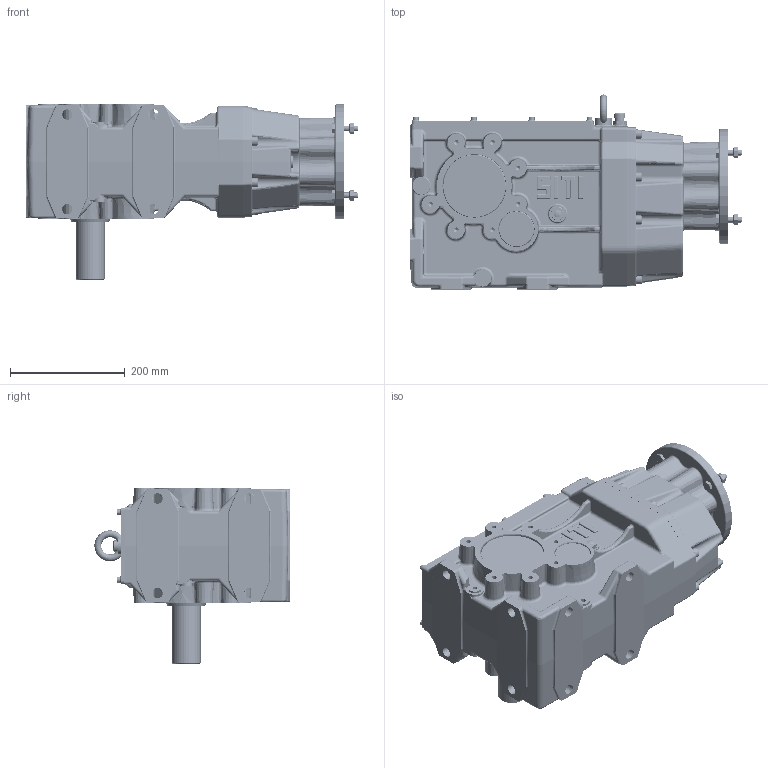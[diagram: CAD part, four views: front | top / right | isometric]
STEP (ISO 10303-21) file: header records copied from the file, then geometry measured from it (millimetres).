
FILE_DESCRIPTION((''),'2;1');
FILE_NAME('C:\Users\m.piscopiello.SITIRIDUTTORI\Desktop\3D x SITO\MBHGC 100 PAM 90\MBHGC_100 MS-A GR 90 B5.stp','2013-05-07T17:26:55',('m.piscopiello'),(''),'Autodesk Inventor 2012','Autodesk Inventor 2012','');
FILE_SCHEMA(('CONFIG_CONTROL_DESIGN'));
Length unit declared in the file: millimetre
Products named in the file (1): MBHGC_100 MS-A GR 90 B5
Bounding box: 578.5 x 339.9 x 305 mm (x, y, z)
Volume: 7796174.8 mm3; surface area: 1550735.5 mm2
Topology: 62 solids, 66 shells, 3919 faces, 9359 edges, 5593 vertices
Faces by surface type: cylinder 1179, plane 1138, bspline 720, torus 385, cone 343, sphere 154
Full cylindrical faces by diameter (mm): 4.917 x9, 6 x17, 6.4 x8, 6.647 x8, 7 x8, 8 x8, 8.376 x22, 9 x8, 10 x32, 10.106 x3, 11 x14, 12 x8, 12.5 x8, 13 x8, 13.835 x1, 14 x8, 14.95 x1, 16 x9, 16.6 x7, 17 x1, 18 x8, 19 x1, 19.05 x1, 19.5 x1, 20 x1, 30 x4, 31.9 x1, 37.5 x1, 39.386 x1, 39.986 x3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
Entity records: 136902 total; most frequent: CARTESIAN_POINT 48961, DIRECTION 17247, ORIENTED_EDGE 16890, EDGE_CURVE 8445, AXIS2_PLACEMENT_3D 7173, VERTEX_POINT 5358, EDGE_LOOP 4726, STYLED_ITEM 3981
